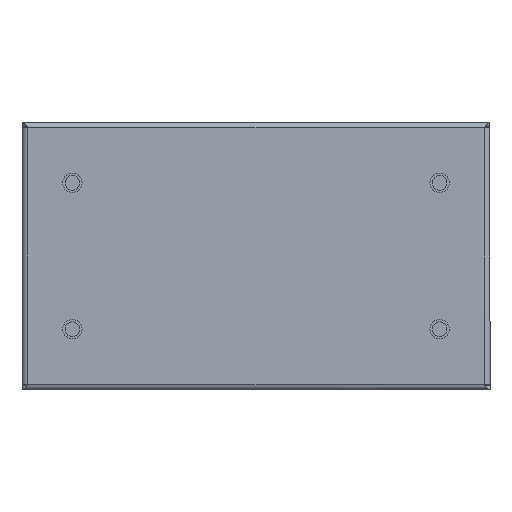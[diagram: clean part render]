
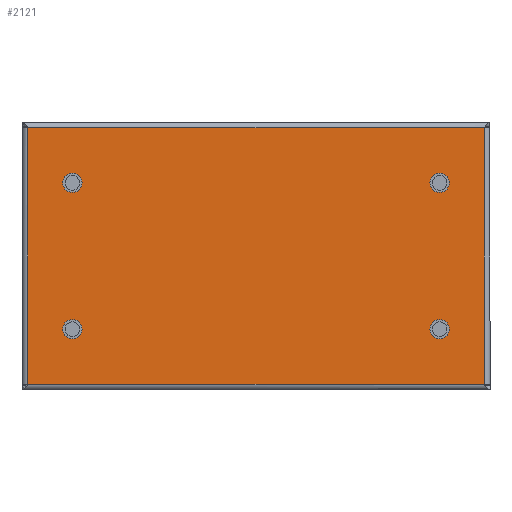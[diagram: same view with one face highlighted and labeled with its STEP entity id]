
A CAD part, front view. The second image highlights one B-rep face of the part: STEP entity #2121.
In plain terms, the highlighted planar face has unit normal (0, -1, 0) as drawn and (0, 0, 1) by its records, which use the part's own axes.
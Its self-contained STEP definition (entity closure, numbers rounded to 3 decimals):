
#1461=CARTESIAN_POINT(' ',(66.5,-26.5,0.));
#1466=DIRECTION(' ',(0.,0.,-1.));
#1471=DIRECTION(' ',(1.,0.,0.));
#1476=AXIS2_PLACEMENT_3D(' ',#1461,#1466,#1471);
#1481=CIRCLE('',#1476,3.5);
#1486=CARTESIAN_POINT(' ',(70.,-26.5,0.));
#1487=VERTEX_POINT(' ',#1486);
#1491=CARTESIAN_POINT(' ',(63.,-26.5,0.));
#1492=VERTEX_POINT(' ',#1491);
#1496=EDGE_CURVE(' ',#1487,#1492,#1481,.T.);
#1626=DIRECTION(' ',(-0.,-0.,1.));
#1631=CARTESIAN_POINT(' ',(82.65,-46.4,0.));
#1636=DIRECTION(' ',(0.,1.,0.));
#1641=AXIS2_PLACEMENT_3D(' ',#1631,#1626,#1636);
#1646=PLANE('NONE',#1641);
#1651=CARTESIAN_POINT(' ',(82.65,-46.4,0.));
#1656=DIRECTION(' ',(0.,1.,0.));
#1661=VECTOR(' ',#1656,1.);
#1666=LINE('',#1651,#1661);
#1671=CARTESIAN_POINT(' ',(82.65,-46.4,0.));
#1672=VERTEX_POINT(' ',#1671);
#1676=CARTESIAN_POINT(' ',(82.65,46.4,0.));
#1677=VERTEX_POINT(' ',#1676);
#1681=EDGE_CURVE(' ',#1672,#1677,#1666,.T.);
#1686=ORIENTED_EDGE(' ',*,*,#1681,.T.);
#1691=CARTESIAN_POINT(' ',(82.65,46.4,0.));
#1696=DIRECTION(' ',(-1.,0.,0.));
#1701=VECTOR(' ',#1696,1.);
#1706=LINE('',#1691,#1701);
#1711=CARTESIAN_POINT(' ',(-82.65,46.4,0.));
#1712=VERTEX_POINT(' ',#1711);
#1716=EDGE_CURVE(' ',#1677,#1712,#1706,.T.);
#1721=ORIENTED_EDGE(' ',*,*,#1716,.T.);
#1726=CARTESIAN_POINT(' ',(-82.65,46.4,0.));
#1731=DIRECTION(' ',(0.,-1.,0.));
#1736=VECTOR(' ',#1731,1.);
#1741=LINE('',#1726,#1736);
#1746=CARTESIAN_POINT(' ',(-82.65,-46.4,0.));
#1747=VERTEX_POINT(' ',#1746);
#1751=EDGE_CURVE(' ',#1712,#1747,#1741,.T.);
#1756=ORIENTED_EDGE(' ',*,*,#1751,.T.);
#1761=CARTESIAN_POINT(' ',(-82.65,-46.4,0.));
#1766=DIRECTION(' ',(1.,0.,0.));
#1771=VECTOR(' ',#1766,1.);
#1776=LINE('',#1761,#1771);
#1781=EDGE_CURVE(' ',#1747,#1672,#1776,.T.);
#1786=ORIENTED_EDGE(' ',*,*,#1781,.T.);
#1791=EDGE_LOOP(' ',(#1686,#1721,#1756,#1786));
#1796=FACE_OUTER_BOUND(' ',#1791,.T.);
#1801=CARTESIAN_POINT(' ',(66.5,-26.5,0.));
#1806=DIRECTION(' ',(0.,-0.,-1.));
#1811=DIRECTION(' ',(-1.,0.,0.));
#1816=AXIS2_PLACEMENT_3D(' ',#1801,#1806,#1811);
#1821=CIRCLE('',#1816,3.5);
#1826=EDGE_CURVE(' ',#1492,#1487,#1821,.T.);
#1831=ORIENTED_EDGE(' ',*,*,#1826,.T.);
#1836=ORIENTED_EDGE(' ',*,*,#1496,.T.);
#1841=EDGE_LOOP(' ',(#1831,#1836));
#1846=FACE_BOUND(' ',#1841,.T.);
#1851=CARTESIAN_POINT(' ',(-66.5,-26.5,0.));
#1856=DIRECTION(' ',(0.,-0.,-1.));
#1861=DIRECTION(' ',(-1.,0.,0.));
#1866=AXIS2_PLACEMENT_3D(' ',#1851,#1856,#1861);
#1871=CIRCLE('',#1866,3.5);
#1876=CARTESIAN_POINT(' ',(-70.,-26.5,0.));
#1877=VERTEX_POINT(' ',#1876);
#1881=CARTESIAN_POINT(' ',(-63.,-26.5,0.));
#1882=VERTEX_POINT(' ',#1881);
#1886=EDGE_CURVE(' ',#1877,#1882,#1871,.T.);
#1891=ORIENTED_EDGE(' ',*,*,#1886,.T.);
#1896=CARTESIAN_POINT(' ',(-66.5,-26.5,0.));
#1901=DIRECTION(' ',(0.,0.,-1.));
#1906=DIRECTION(' ',(1.,0.,0.));
#1911=AXIS2_PLACEMENT_3D(' ',#1896,#1901,#1906);
#1916=CIRCLE('',#1911,3.5);
#1921=EDGE_CURVE(' ',#1882,#1877,#1916,.T.);
#1926=ORIENTED_EDGE(' ',*,*,#1921,.T.);
#1931=EDGE_LOOP(' ',(#1891,#1926));
#1936=FACE_BOUND(' ',#1931,.T.);
#1941=CARTESIAN_POINT(' ',(66.5,26.5,0.));
#1946=DIRECTION(' ',(0.,-0.,-1.));
#1951=DIRECTION(' ',(-1.,0.,0.));
#1956=AXIS2_PLACEMENT_3D(' ',#1941,#1946,#1951);
#1961=CIRCLE('',#1956,3.5);
#1966=CARTESIAN_POINT(' ',(63.,26.5,0.));
#1967=VERTEX_POINT(' ',#1966);
#1971=CARTESIAN_POINT(' ',(70.,26.5,0.));
#1972=VERTEX_POINT(' ',#1971);
#1976=EDGE_CURVE(' ',#1967,#1972,#1961,.T.);
#1981=ORIENTED_EDGE(' ',*,*,#1976,.T.);
#1986=CARTESIAN_POINT(' ',(66.5,26.5,0.));
#1991=DIRECTION(' ',(0.,0.,-1.));
#1996=DIRECTION(' ',(1.,0.,0.));
#2001=AXIS2_PLACEMENT_3D(' ',#1986,#1991,#1996);
#2006=CIRCLE('',#2001,3.5);
#2011=EDGE_CURVE(' ',#1972,#1967,#2006,.T.);
#2016=ORIENTED_EDGE(' ',*,*,#2011,.T.);
#2021=EDGE_LOOP(' ',(#1981,#2016));
#2026=FACE_BOUND(' ',#2021,.T.);
#2031=CARTESIAN_POINT(' ',(-66.5,26.5,0.));
#2036=DIRECTION(' ',(0.,-0.,-1.));
#2041=DIRECTION(' ',(-1.,0.,0.));
#2046=AXIS2_PLACEMENT_3D(' ',#2031,#2036,#2041);
#2051=CIRCLE('',#2046,3.5);
#2056=CARTESIAN_POINT(' ',(-70.,26.5,0.));
#2057=VERTEX_POINT(' ',#2056);
#2061=CARTESIAN_POINT(' ',(-63.,26.5,0.));
#2062=VERTEX_POINT(' ',#2061);
#2066=EDGE_CURVE(' ',#2057,#2062,#2051,.T.);
#2071=ORIENTED_EDGE(' ',*,*,#2066,.T.);
#2076=CARTESIAN_POINT(' ',(-66.5,26.5,0.));
#2081=DIRECTION(' ',(0.,0.,-1.));
#2086=DIRECTION(' ',(1.,0.,0.));
#2091=AXIS2_PLACEMENT_3D(' ',#2076,#2081,#2086);
#2096=CIRCLE('',#2091,3.5);
#2101=EDGE_CURVE(' ',#2062,#2057,#2096,.T.);
#2106=ORIENTED_EDGE(' ',*,*,#2101,.T.);
#2111=EDGE_LOOP(' ',(#2071,#2106));
#2116=FACE_BOUND(' ',#2111,.T.);
#2121=ADVANCED_FACE('NONE',(#1796,#1846,#1936,#2026,#2116),#1646,.T.);
